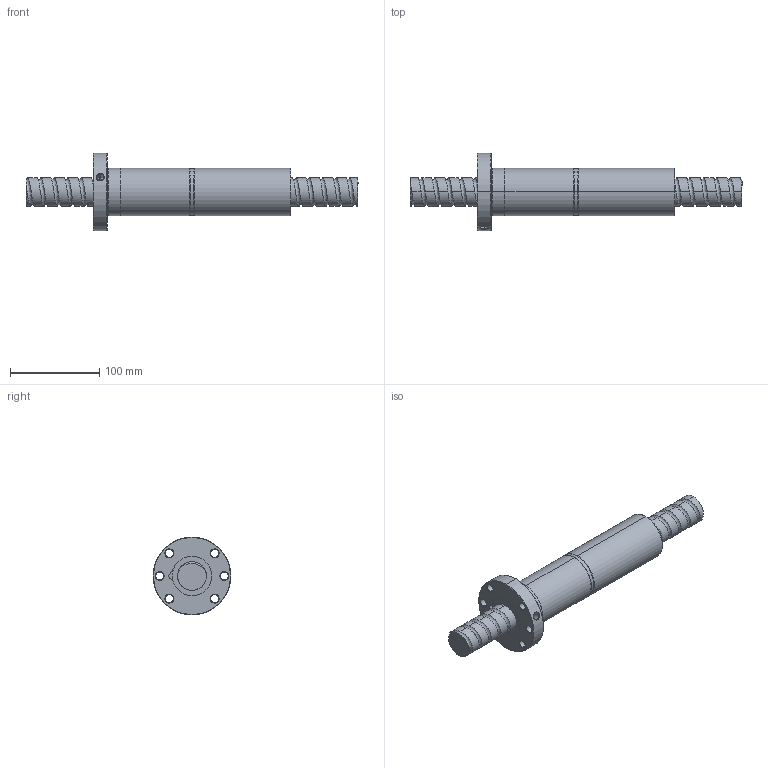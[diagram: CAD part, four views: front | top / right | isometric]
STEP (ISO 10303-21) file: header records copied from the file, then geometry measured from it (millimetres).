
FILE_DESCRIPTION (( 'STEP AP214' ), '1' );
FILE_NAME ('FDDC03215T5-F-A.STEP', '2010-07-06T05:18:53', ( 'XPAUTO' ), ( 'XPAUTO' ), 'SwSTEP 2.0', 'SolidWorks 2007', '' );
FILE_SCHEMA (( 'AUTOMOTIVE_DESIGN' ));
Length unit declared in the file: millimetre
Products named in the file (3): FDDC03215T5-F-A; FDDC03215T5-F-A.sldasm-Part-2_預設; FDDC03215T5-F-A.sldasm-Part-1_預設
Assembly tree (2 placements, depth 2):
  FDDC03215T5-F-A
    FDDC03215T5-F-A.sldasm-Part-1_預設
    FDDC03215T5-F-A.sldasm-Part-2_預設
Bounding box: 371 x 87 x 87 mm (x, y, z)
Volume: 639438.6 mm3; surface area: 116017.7 mm2
Topology: 2 solids, 2 shells, 148 faces, 374 edges, 235 vertices
Faces by surface type: cylinder 93, cone 24, plane 16, torus 10, bspline 5
Entity records: 31435 total; most frequent: CARTESIAN_POINT 27920, ORIENTED_EDGE 748, DIRECTION 674, EDGE_CURVE 374, AXIS2_PLACEMENT_3D 275, VERTEX_POINT 235, EDGE_LOOP 169, FACE_OUTER_BOUND 148
